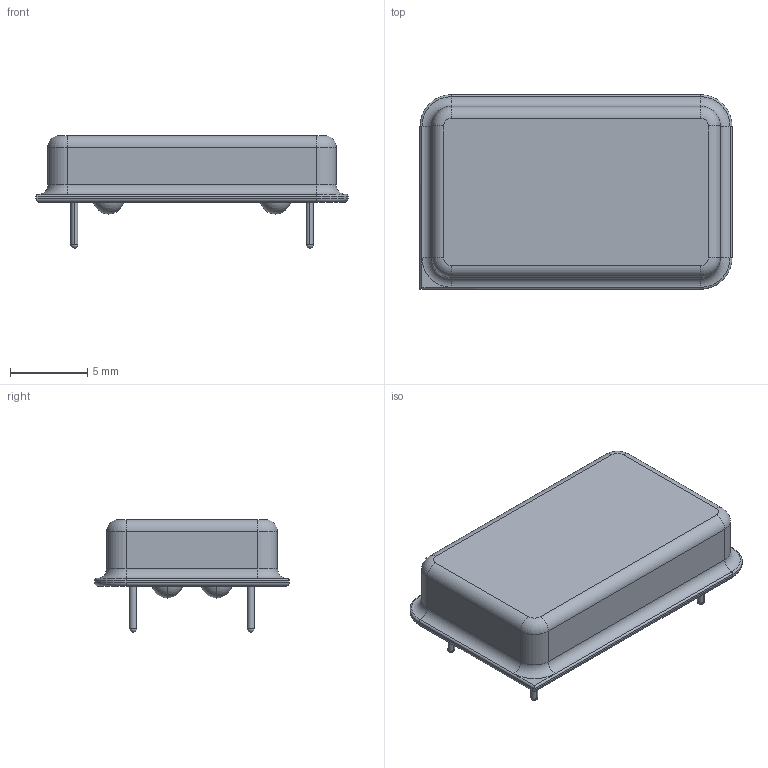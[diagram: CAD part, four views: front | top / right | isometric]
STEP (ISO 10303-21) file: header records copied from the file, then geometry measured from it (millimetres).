
FILE_DESCRIPTION (( 'STEP AP214' ), '1' );
FILE_NAME ( 'OSC762W45P254L2020H508Q4.STEP', '2021-10-06T06:48:59', ( '' ), ( '' ), '', '©2017 PCB Libraries, Inc.', '' );
FILE_SCHEMA (( 'AUTOMOTIVE_DESIGN' ));
Length unit declared in the file: millimetre
Products named in the file (1): OSC762W45P254L2020H508Q4
Bounding box: 20.2 x 12.6 x 7.31 mm (x, y, z)
Volume: 915.2 mm3; surface area: 734.5 mm2
Topology: 5 solids, 5 shells, 72 faces, 152 edges, 90 vertices
Faces by surface type: cylinder 31, plane 15, torus 14, sphere 12
Entity records: 2124 total; most frequent: DIRECTION 369, CARTESIAN_POINT 301, ORIENTED_EDGE 280, AXIS2_PLACEMENT_3D 158, EDGE_CURVE 140, CIRCLE 85, VERTEX_POINT 82, STYLED_ITEM 78
